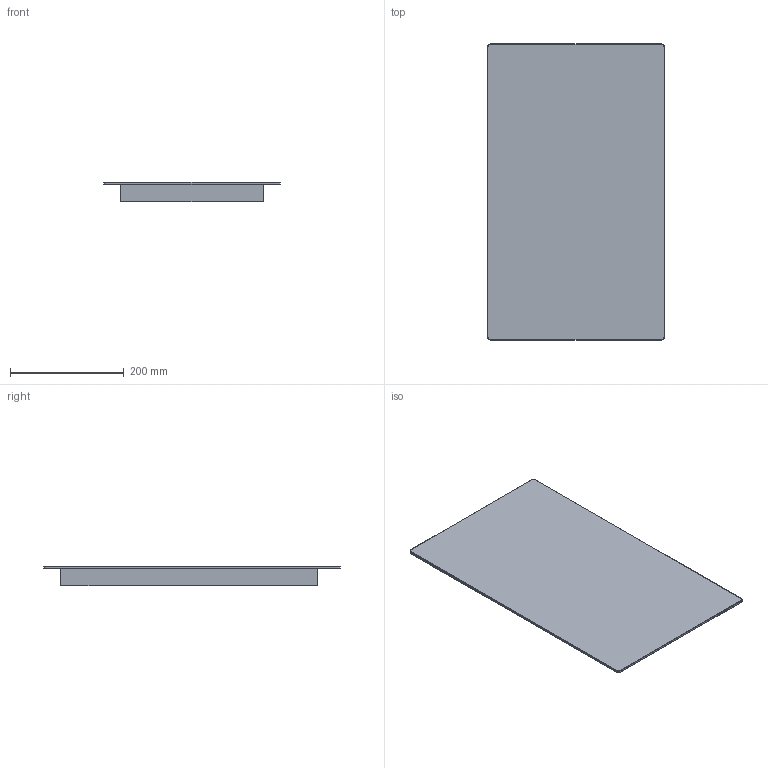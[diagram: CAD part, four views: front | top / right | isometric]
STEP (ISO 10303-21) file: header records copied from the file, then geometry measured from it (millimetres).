
FILE_DESCRIPTION(/* description */ ('outdoor induction hob double booster'),/* implementation_level */ '2;1');
FILE_NAME(/* name */ 'KI1-DB_MOCKUP.step',/* time_stamp */ '2026-02-25T15:53:42+01:00',/* author */ (''),/* organization */ (''),/* preprocessor_version */ 'ST-DEVELOPER v20.1',/* originating_system */ 'Autodesk Translation Framework v14.24.0.0',/* authorisation */ '');
FILE_SCHEMA (('AUTOMOTIVE_DESIGN { 1 0 10303 214 3 1 1 }'));
Length unit declared in the file: millimetre
Products named in the file (1): KI1-DB_MOCKUP
Bounding box: 310 x 520 x 34 mm (x, y, z)
Volume: 4019537 mm3; surface area: 595253.7 mm2
Topology: 2 solids, 2 shells, 32 faces, 68 edges, 40 vertices
Faces by surface type: cylinder 12, plane 12, torus 8
Entity records: 903 total; most frequent: DIRECTION 166, CARTESIAN_POINT 141, ORIENTED_EDGE 136, EDGE_CURVE 68, AXIS2_PLACEMENT_3D 65, VERTEX_POINT 40, LINE 36, VECTOR 36
